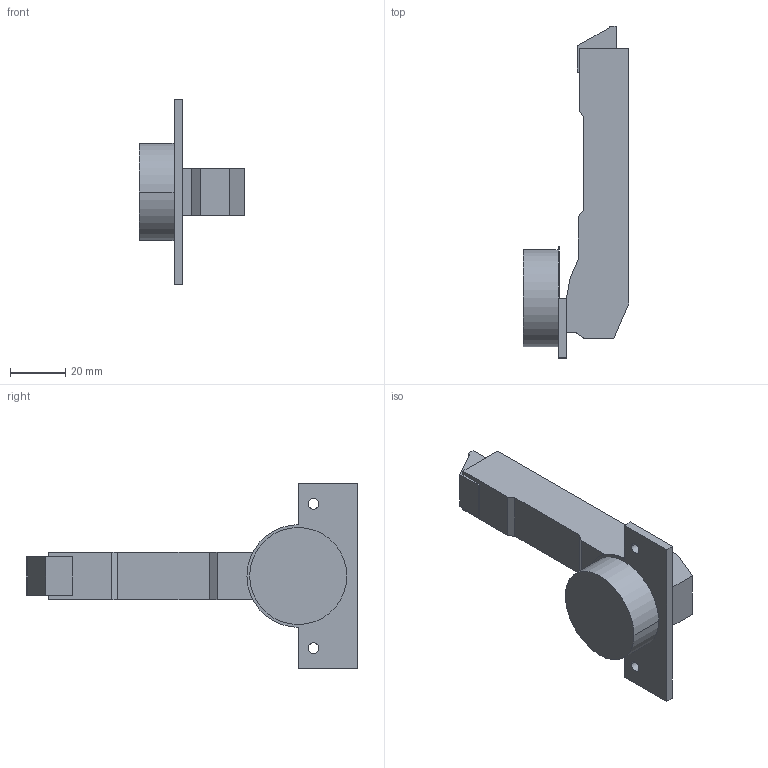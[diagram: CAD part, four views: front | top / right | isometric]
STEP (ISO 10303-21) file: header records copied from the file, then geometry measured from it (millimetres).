
FILE_DESCRIPTION (( 'STEP AP214' ), '1' );
FILE_NAME ('Scharnier TS Click-on 110° +90° H_BB, einliegend.step', '2010-12-13T10:22:54', ( 'grass' ), ( '' ), 'SwSTEP 2.0', 'SolidWorks 2010', '' );
FILE_SCHEMA (( 'AUTOMOTIVE_DESIGN' ));
Length unit declared in the file: millimetre
Products named in the file (1): Scharnier TS Click-on 110° +90° H_BB, einliegend
Bounding box: 38.15 x 119.6 x 67 mm (x, y, z)
Volume: 49438.8 mm3; surface area: 13828.9 mm2
Topology: 1 solids, 1 shells, 50 faces, 130 edges, 86 vertices
Faces by surface type: plane 36, cylinder 14
Entity records: 1568 total; most frequent: CARTESIAN_POINT 267, DIRECTION 260, ORIENTED_EDGE 260, EDGE_CURVE 130, VECTOR 102, LINE 102, VERTEX_POINT 86, AXIS2_PLACEMENT_3D 79
